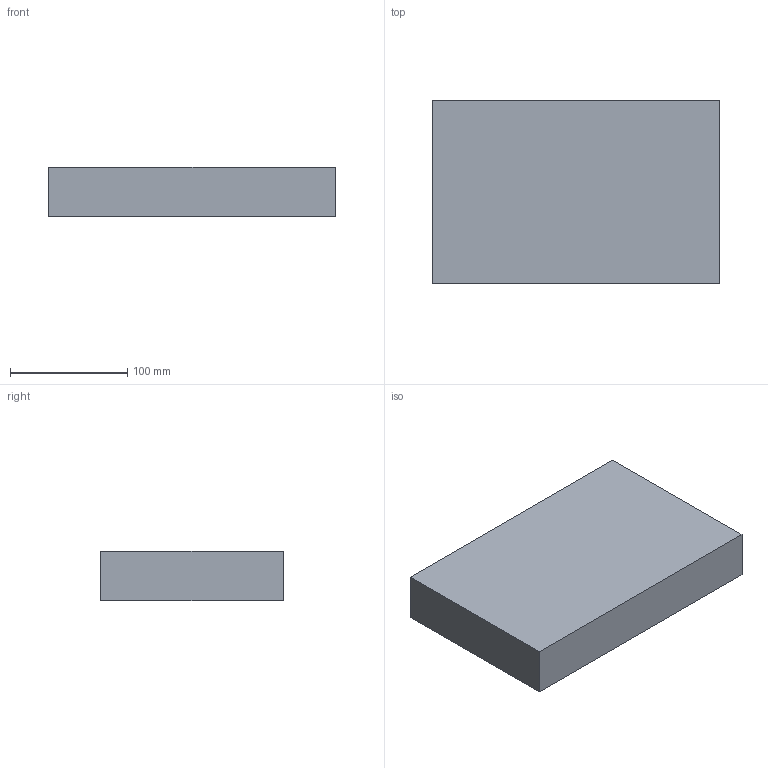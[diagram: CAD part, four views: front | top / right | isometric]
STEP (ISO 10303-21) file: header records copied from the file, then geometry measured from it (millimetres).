
FILE_DESCRIPTION(('CATIA V5 STEP Exchange'),'2;1');
FILE_NAME('G:\Risto Project\akuteema\Liteplus\LitePlus battery element.stp','2013-04-12T17:43:42+00:00',('none'),('none'),'CATIA Version 5 Release 21 GA (IN-10)','CATIA V5 STEP AP203','none');
FILE_SCHEMA(('CONFIG_CONTROL_DESIGN'));
Length unit declared in the file: millimetre
Products named in the file (1): LitePlus battery element
Bounding box: 245 x 155.9 x 42 mm (x, y, z)
Volume: 1604211 mm3; surface area: 110066.6 mm2
Topology: 1 solids, 1 shells, 6 faces, 12 edges, 8 vertices
Faces by surface type: plane 6
Entity records: 198 total; most frequent: CARTESIAN_POINT 27, DIRECTION 24, ORIENTED_EDGE 24, VECTOR 12, EDGE_CURVE 12, LINE 12, VERTEX_POINT 8, AXIS2_PLACEMENT_3D 7
